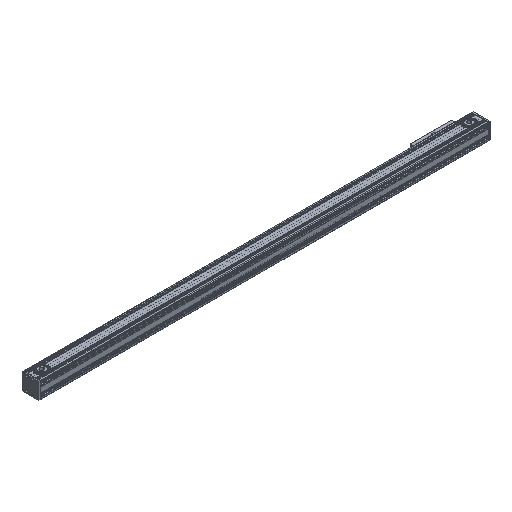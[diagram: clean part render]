
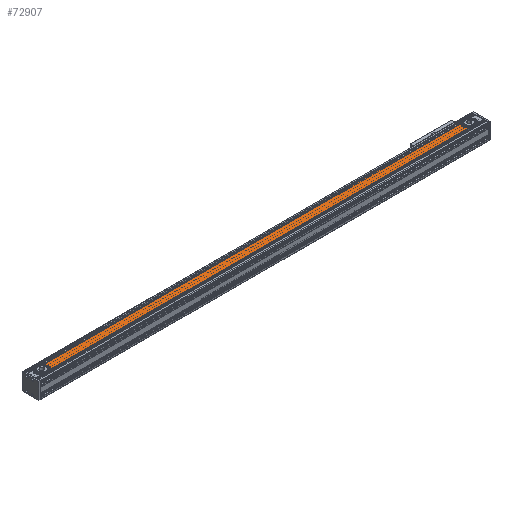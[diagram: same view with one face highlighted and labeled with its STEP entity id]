
A CAD part, isometric view. The second image highlights one B-rep face of the part: STEP entity #72907.
In plain terms, the highlighted planar face has unit normal (0, 0, 1).
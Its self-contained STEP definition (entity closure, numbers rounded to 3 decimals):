
#4979 = DIRECTION ( 'NONE',  ( -1., 0., 0. ) ) ;
#7331 = EDGE_LOOP ( 'NONE', ( #111849, #53800, #77550, #55676 ) ) ;
#8720 = AXIS2_PLACEMENT_3D ( 'NONE', #22201, #10946, #85303 ) ;
#10946 = DIRECTION ( 'NONE',  ( 0., 0., 1. ) ) ;
#12085 = DIRECTION ( 'NONE',  ( 0., 0., 1. ) ) ;
#17889 = VERTEX_POINT ( 'NONE', #29511 ) ;
#20735 = VECTOR ( 'NONE', #105823, 1000. ) ;
#22201 = CARTESIAN_POINT ( 'NONE',  ( 1955.328, 83.121, 83.366 ) ) ;
#28292 = VERTEX_POINT ( 'NONE', #130111 ) ;
#29113 = VERTEX_POINT ( 'NONE', #107100 ) ;
#29511 = CARTESIAN_POINT ( 'NONE',  ( -91.244, 62.821, 83.366 ) ) ;
#32181 = VECTOR ( 'NONE', #39058, 1000. ) ;
#34626 = FACE_OUTER_BOUND ( 'NONE', #7331, .T. ) ;
#37170 = AXIS2_PLACEMENT_3D ( 'NONE', #53284, #86181, #4979 ) ;
#37998 = CARTESIAN_POINT ( 'NONE',  ( -164.672, 62.821, 83.366 ) ) ;
#39058 = DIRECTION ( 'NONE',  ( -1., 0., 0. ) ) ;
#50322 = EDGE_CURVE ( 'NONE', #17889, #29113, #128124, .T. ) ;
#53284 = CARTESIAN_POINT ( 'NONE',  ( -114.672, 83.121, 83.366 ) ) ;
#53800 = ORIENTED_EDGE ( 'NONE', *, *, #126897, .F. ) ;
#55676 = ORIENTED_EDGE ( 'NONE', *, *, #107039, .T. ) ;
#72907 = ADVANCED_FACE ( 'NONE', ( #34626 ), #105066, .T. ) ;
#73309 = CARTESIAN_POINT ( 'NONE',  ( 1931.899, 103.421, 83.366 ) ) ;
#74140 = DIRECTION ( 'NONE',  ( 1., 0., 0. ) ) ;
#77550 = ORIENTED_EDGE ( 'NONE', *, *, #98444, .T. ) ;
#84707 = CIRCLE ( 'NONE', #8720, 31. ) ;
#85303 = DIRECTION ( 'NONE',  ( 1., 0., 0. ) ) ;
#86181 = DIRECTION ( 'NONE',  ( 0., 0., -1. ) ) ;
#93625 = CIRCLE ( 'NONE', #37170, 31. ) ;
#98444 = EDGE_CURVE ( 'NONE', #121496, #28292, #120616, .T. ) ;
#105066 = PLANE ( 'NONE',  #123702 ) ;
#105823 = DIRECTION ( 'NONE',  ( 1., 0., 0. ) ) ;
#107039 = EDGE_CURVE ( 'NONE', #28292, #17889, #93625, .T. ) ;
#107100 = CARTESIAN_POINT ( 'NONE',  ( 1931.899, 62.821, 83.366 ) ) ;
#111849 = ORIENTED_EDGE ( 'NONE', *, *, #50322, .T. ) ;
#120616 = LINE ( 'NONE', #129189, #32181 ) ;
#121496 = VERTEX_POINT ( 'NONE', #73309 ) ;
#123702 = AXIS2_PLACEMENT_3D ( 'NONE', #124148, #12085, #74140 ) ;
#124148 = CARTESIAN_POINT ( 'NONE',  ( -164.672, 119.121, 83.366 ) ) ;
#126897 = EDGE_CURVE ( 'NONE', #121496, #29113, #84707, .T. ) ;
#128124 = LINE ( 'NONE', #37998, #20735 ) ;
#129189 = CARTESIAN_POINT ( 'NONE',  ( -164.672, 103.421, 83.366 ) ) ;
#130111 = CARTESIAN_POINT ( 'NONE',  ( -91.244, 103.421, 83.366 ) ) ;
